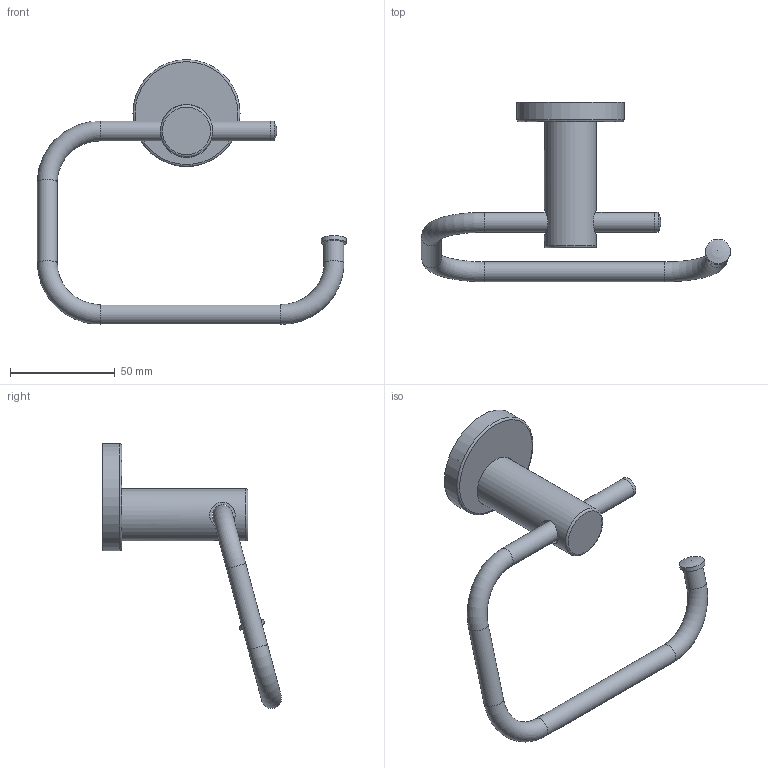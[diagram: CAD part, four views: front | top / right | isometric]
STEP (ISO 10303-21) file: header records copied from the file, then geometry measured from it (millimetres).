
FILE_DESCRIPTION(/* description */ (''),/* implementation_level */ '2;1');
FILE_NAME(/* name */ '4111162',/* time_stamp */ '2019-08-26T09:16:57+08:00',/* author */ (''),/* organization */ (''),/* preprocessor_version */ 'ST-DEVELOPER v9',/* originating_system */ 'UGS - NX 4.0',/* authorisation */ '');
FILE_SCHEMA (('CONFIG_CONTROL_DESIGN'));
Length unit declared in the file: millimetre
Products named in the file (1): w335DEEtk2z
Bounding box: 147.25 x 85.25 x 126.15 mm (x, y, z)
Volume: 33820 mm3; surface area: 39863 mm2
Topology: 6 solids, 6 shells, 106 faces, 258 edges, 162 vertices
Faces by surface type: plane 49, cylinder 41, torus 9, cone 5, sphere 2
Full cylindrical faces by diameter (mm): 4.2 x1, 7.7 x4, 8.5 x1, 9.5 x5, 9.6 x1, 12 x1, 12.2 x2, 18.8 x1, 24.8 x1, 25.3 x1, 50 x1, 51 x1
Entity records: 3050 total; most frequent: CARTESIAN_POINT 580, DIRECTION 524, ORIENTED_EDGE 424, EDGE_CURVE 212, AXIS2_PLACEMENT_3D 209, EDGE_LOOP 157, VERTEX_POINT 153, LINE 106
